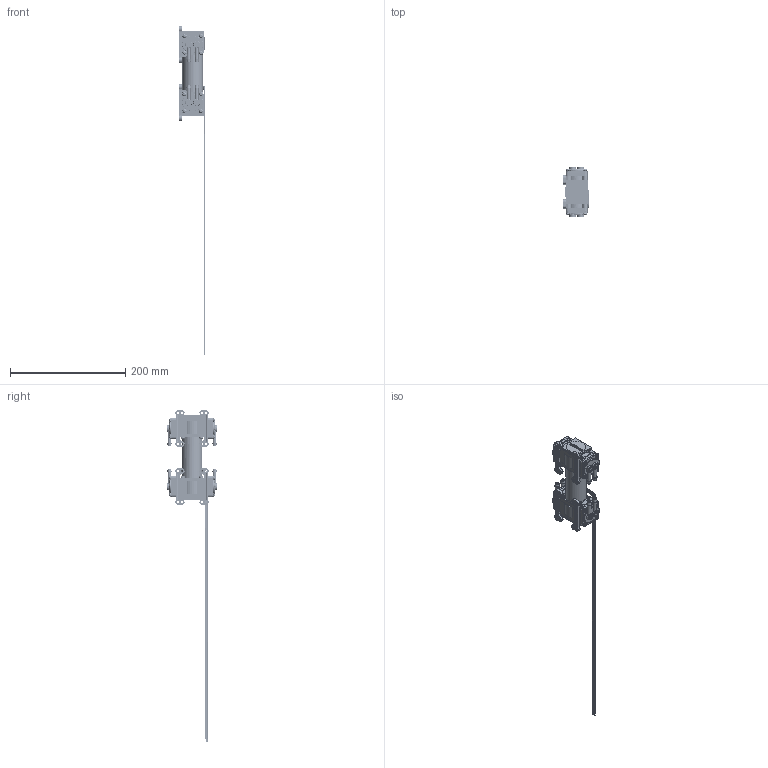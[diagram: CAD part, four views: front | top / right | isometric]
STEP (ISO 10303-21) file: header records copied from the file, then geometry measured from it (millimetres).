
FILE_DESCRIPTION (( 'STEP AP214' ), '1' );
FILE_NAME ('3114.6xx_Rev00_Assy.STEP', '2023-08-01T10:37:19', ( '' ), ( '' ), 'SwSTEP 2.0', 'SolidWorks 2021', '' );
FILE_SCHEMA (( 'AUTOMOTIVE_DESIGN' ));
Length unit declared in the file: millimetre
Products named in the file (1): 3114.6xx_Rev00_Assy
Bounding box: 44.4 x 86.4 x 576.98 mm (x, y, z)
Volume: 130648.4 mm3; surface area: 128446.4 mm2
Topology: 59 solids, 60 shells, 2665 faces, 6375 edges, 4236 vertices
Faces by surface type: plane 1025, cylinder 863, cone 543, bspline 129, torus 105
Full cylindrical faces by diameter (mm): 0.8 x4, 1.4 x12, 1.5 x1, 2 x16, 2.4 x120, 2.5 x11, 3.4 x40, 3.5 x22, 3.9 x8, 4.2 x48, 4.5 x8, 6 x1, 6.5 x8, 7.5 x8, 8 x8, 10 x2, 18 x4, 30.336 x8, 32 x1, 34 x6, 36 x2
Entity records: 114583 total; most frequent: CARTESIAN_POINT 29122, DIRECTION 10993, ORIENTED_EDGE 10560, EDGE_CURVE 5280, AXIS2_PLACEMENT_3D 4538, EDGE_LOOP 4058, VERTEX_POINT 3908, FACE_OUTER_BOUND 3085
